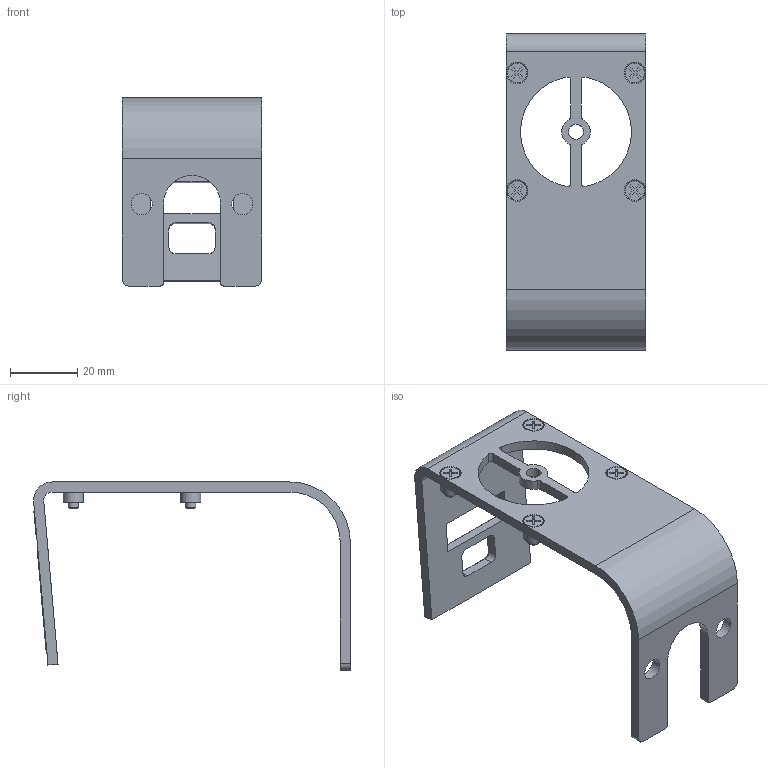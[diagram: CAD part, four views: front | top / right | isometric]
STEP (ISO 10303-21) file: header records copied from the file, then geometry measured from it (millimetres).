
FILE_DESCRIPTION( ( 'STEP AP203' ), '1' );
FILE_NAME( '//expscmdclustefs.cadenas.external/client_exchange/iodir/jobs/output/wkb80973062_no0/STEP/E21236_2_03.stp', ' ', ( ' ' ), ( ' ' ), 'PSStep 15.0.47', 'PARTsolutions', ' ' );
FILE_SCHEMA( ( 'CONFIG_CONTROL_DESIGN' ) );
Length unit declared in the file: millimetre
Products named in the file (1): _E21236
Bounding box: 41.6 x 94.25 x 56 mm (x, y, z)
Volume: 19139.7 mm3; surface area: 15982.1 mm2
Topology: 1 solids, 1 shells, 281 faces, 777 edges, 506 vertices
Faces by surface type: plane 196, cylinder 69, cone 12, torus 4
Full cylindrical faces by diameter (mm): 3 x4, 3.2 x4, 3.4 x4, 3.44 x4, 4.5 x1, 6 x4, 6.3 x2
Entity records: 8818 total; most frequent: DIRECTION 1520, CARTESIAN_POINT 1510, ORIENTED_EDGE 1452, EDGE_CURVE 726, AXIS2_PLACEMENT_3D 512, VERTEX_POINT 502, LINE 496, VECTOR 496
